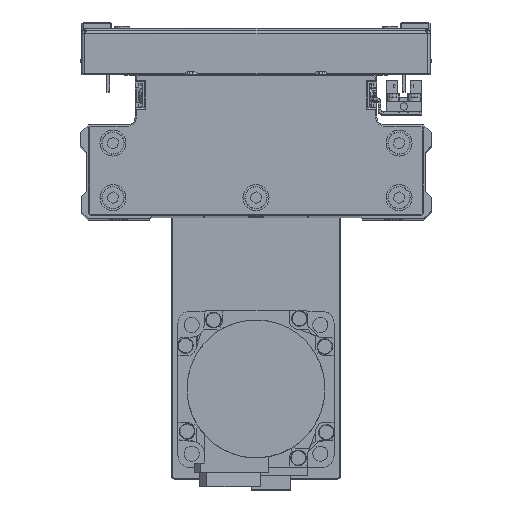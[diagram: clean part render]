
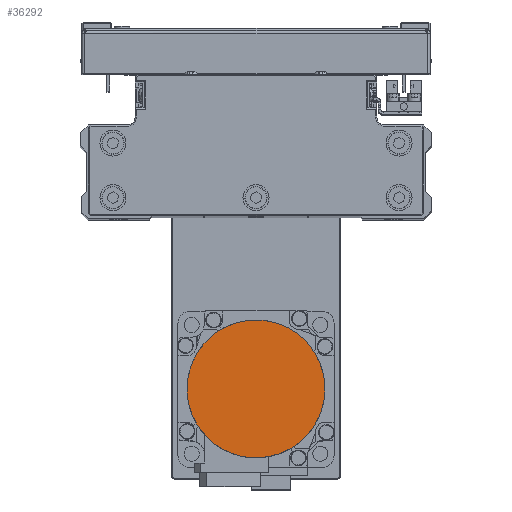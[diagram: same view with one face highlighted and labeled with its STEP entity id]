
A CAD part, top view. The second image highlights one B-rep face of the part: STEP entity #36292.
In plain terms, the highlighted planar face has unit normal (0, 0, 1) as drawn and (0, 0, -1) by its records, which use the part's own axes.
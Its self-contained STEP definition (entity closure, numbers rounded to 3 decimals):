
#1918 = CARTESIAN_POINT ( 'NONE',  ( -19.965, -17.512, -109.7 ) ) ;
#2122 = CARTESIAN_POINT ( 'NONE',  ( 11.744, -23.819, -109.7 ) ) ;
#2687 = CARTESIAN_POINT ( 'NONE',  ( 25.652, 6.871, -109.7 ) ) ;
#2898 = CARTESIAN_POINT ( 'NONE',  ( 1.734, 26.5, -109.7 ) ) ;
#3133 = CARTESIAN_POINT ( 'NONE',  ( -25.147, 8.539, -109.7 ) ) ;
#3452 = VERTEX_POINT ( 'NONE', #25132 ) ;
#4819 = DIRECTION ( 'NONE',  ( 1., 0., 0. ) ) ;
#5208 = CARTESIAN_POINT ( 'NONE',  ( -23.819, -11.744, -109.7 ) ) ;
#5425 = CARTESIAN_POINT ( 'NONE',  ( 3.469, -26.329, -109.7 ) ) ;
#5634 = CARTESIAN_POINT ( 'NONE',  ( 26.329, -3.469, -109.7 ) ) ;
#5983 = CARTESIAN_POINT ( 'NONE',  ( 26.5, 0., -109.7 ) ) ;
#6210 = CARTESIAN_POINT ( 'NONE',  ( 8.539, 25.147, -109.7 ) ) ;
#6415 = CARTESIAN_POINT ( 'NONE',  ( -21.07, 16.165, -109.7 ) ) ;
#6584 = AXIS2_PLACEMENT_3D ( 'NONE', #21518, #34893, #4819 ) ;
#6740 = ORIENTED_EDGE ( 'NONE', *, *, #15949, .F. ) ;
#8123 = PLANE ( 'NONE',  #6584 ) ;
#8508 = CARTESIAN_POINT ( 'NONE',  ( -26.329, -3.469, -109.7 ) ) ;
#8732 = CARTESIAN_POINT ( 'NONE',  ( -3.469, -26.329, -109.7 ) ) ;
#8952 = CARTESIAN_POINT ( 'NONE',  ( 23.819, -11.744, -109.7 ) ) ;
#9512 = CARTESIAN_POINT ( 'NONE',  ( 16.165, 21.07, -109.7 ) ) ;
#9735 = CARTESIAN_POINT ( 'NONE',  ( -16.165, 21.07, -109.7 ) ) ;
#11449 = ORIENTED_EDGE ( 'NONE', *, *, #19324, .F. ) ;
#12023 = CARTESIAN_POINT ( 'NONE',  ( -11.744, -23.819, -109.7 ) ) ;
#12250 = CARTESIAN_POINT ( 'NONE',  ( 19.965, -17.512, -109.7 ) ) ;
#12801 = CARTESIAN_POINT ( 'NONE',  ( 21.07, 16.165, -109.7 ) ) ;
#13029 = CARTESIAN_POINT ( 'NONE',  ( -8.539, 25.147, -109.7 ) ) ;
#13244 = CARTESIAN_POINT ( 'NONE',  ( -26.5, 0., -109.7 ) ) ;
#13843 = B_SPLINE_CURVE_WITH_KNOTS ( 'NONE', 3,
 ( #5983, #19378, #32773, #2687, #16086, #29472, #42837, #12801, #26178, #39559, #9512, #22895, #36265, #6210, #19595, #32981, #2898, #16305, #29701, #43070, #13029, #26401, #39782, #9735, #23108, #36476, #6415, #19813, #33200, #3133, #16538, #29928, #43291, #13244 ),
 .UNSPECIFIED., .F., .F.,
 ( 4, 2, 2, 2, 2, 2, 2, 2, 2, 2, 2, 2, 2, 2, 2, 2, 4 ),
 ( 0., 0.062, 0.125, 0.187, 0.25, 0.312, 0.375, 0.437, 0.5, 0.562, 0.625, 0.687, 0.75, 0.813, 0.875, 0.938, 1. ),
 .UNSPECIFIED. ) ;
#15321 = CARTESIAN_POINT ( 'NONE',  ( -17.512, -19.965, -109.7 ) ) ;
#15525 = CARTESIAN_POINT ( 'NONE',  ( 13.28, -22.998, -109.7 ) ) ;
#15949 = EDGE_CURVE ( 'NONE', #3452, #29540, #13843, .T. ) ;
#16086 = CARTESIAN_POINT ( 'NONE',  ( 25.147, 8.539, -109.7 ) ) ;
#16305 = CARTESIAN_POINT ( 'NONE',  ( -1.734, 26.5, -109.7 ) ) ;
#16538 = CARTESIAN_POINT ( 'NONE',  ( -25.652, 6.871, -109.7 ) ) ;
#18616 = CARTESIAN_POINT ( 'NONE',  ( -22.998, -13.28, -109.7 ) ) ;
#18828 = CARTESIAN_POINT ( 'NONE',  ( 6.871, -25.652, -109.7 ) ) ;
#19029 = CARTESIAN_POINT ( 'NONE',  ( 26.5, -1.734, -109.7 ) ) ;
#19324 = EDGE_CURVE ( 'NONE', #29540, #3452, #35314, .T. ) ;
#19378 = CARTESIAN_POINT ( 'NONE',  ( 26.5, 1.734, -109.7 ) ) ;
#19595 = CARTESIAN_POINT ( 'NONE',  ( 6.871, 25.652, -109.7 ) ) ;
#19813 = CARTESIAN_POINT ( 'NONE',  ( -22.998, 13.28, -109.7 ) ) ;
#21518 = CARTESIAN_POINT ( 'NONE',  ( 0., 0., -109.7 ) ) ;
#21896 = CARTESIAN_POINT ( 'NONE',  ( -25.652, -6.871, -109.7 ) ) ;
#22122 = CARTESIAN_POINT ( 'NONE',  ( -1.734, -26.5, -109.7 ) ) ;
#22333 = CARTESIAN_POINT ( 'NONE',  ( 25.147, -8.539, -109.7 ) ) ;
#22895 = CARTESIAN_POINT ( 'NONE',  ( 13.28, 22.998, -109.7 ) ) ;
#23108 = CARTESIAN_POINT ( 'NONE',  ( -17.512, 19.965, -109.7 ) ) ;
#25132 = CARTESIAN_POINT ( 'NONE',  ( 26.5, 0., -109.7 ) ) ;
#25191 = CARTESIAN_POINT ( 'NONE',  ( -26.5, 0., -109.7 ) ) ;
#25401 = CARTESIAN_POINT ( 'NONE',  ( -8.539, -25.147, -109.7 ) ) ;
#25622 = CARTESIAN_POINT ( 'NONE',  ( 21.07, -16.165, -109.7 ) ) ;
#26178 = CARTESIAN_POINT ( 'NONE',  ( 19.965, 17.512, -109.7 ) ) ;
#26401 = CARTESIAN_POINT ( 'NONE',  ( -11.744, 23.819, -109.7 ) ) ;
#27203 = CARTESIAN_POINT ( 'NONE',  ( -26.5, 0., -109.7 ) ) ;
#27509 = EDGE_LOOP ( 'NONE', ( #6740, #11449 ) ) ;
#28701 = CARTESIAN_POINT ( 'NONE',  ( -16.165, -21.07, -109.7 ) ) ;
#28909 = CARTESIAN_POINT ( 'NONE',  ( 16.165, -21.07, -109.7 ) ) ;
#29472 = CARTESIAN_POINT ( 'NONE',  ( 23.819, 11.744, -109.7 ) ) ;
#29540 = VERTEX_POINT ( 'NONE', #27203 ) ;
#29701 = CARTESIAN_POINT ( 'NONE',  ( -3.469, 26.329, -109.7 ) ) ;
#29928 = CARTESIAN_POINT ( 'NONE',  ( -26.329, 3.469, -109.7 ) ) ;
#32014 = CARTESIAN_POINT ( 'NONE',  ( -21.07, -16.165, -109.7 ) ) ;
#32218 = CARTESIAN_POINT ( 'NONE',  ( 8.539, -25.147, -109.7 ) ) ;
#32424 = CARTESIAN_POINT ( 'NONE',  ( 26.5, 0., -109.7 ) ) ;
#32773 = CARTESIAN_POINT ( 'NONE',  ( 26.329, 3.469, -109.7 ) ) ;
#32981 = CARTESIAN_POINT ( 'NONE',  ( 3.469, 26.329, -109.7 ) ) ;
#33200 = CARTESIAN_POINT ( 'NONE',  ( -23.819, 11.744, -109.7 ) ) ;
#34893 = DIRECTION ( 'NONE',  ( 0., 0., 1. ) ) ;
#35284 = CARTESIAN_POINT ( 'NONE',  ( -25.147, -8.539, -109.7 ) ) ;
#35314 = B_SPLINE_CURVE_WITH_KNOTS ( 'NONE', 3,
 ( #25191, #38569, #8508, #21896, #35284, #5208, #18616, #32014, #1918, #15321, #28701, #42066, #12023, #25401, #38788, #8732, #22122, #35503, #5425, #18828, #32218, #2122, #15525, #28909, #42290, #12250, #25622, #39005, #8952, #22333, #35711, #5634, #19029, #32424 ),
 .UNSPECIFIED., .F., .F.,
 ( 4, 2, 2, 2, 2, 2, 2, 2, 2, 2, 2, 2, 2, 2, 2, 2, 4 ),
 ( 0., 0.063, 0.125, 0.188, 0.25, 0.312, 0.375, 0.437, 0.5, 0.562, 0.625, 0.687, 0.75, 0.813, 0.875, 0.938, 1. ),
 .UNSPECIFIED. ) ;
#35503 = CARTESIAN_POINT ( 'NONE',  ( 1.734, -26.5, -109.7 ) ) ;
#35711 = CARTESIAN_POINT ( 'NONE',  ( 25.652, -6.871, -109.7 ) ) ;
#36265 = CARTESIAN_POINT ( 'NONE',  ( 11.744, 23.819, -109.7 ) ) ;
#36292 = ADVANCED_FACE ( 'NONE', ( #38180 ), #8123, .F. ) ;
#36476 = CARTESIAN_POINT ( 'NONE',  ( -19.965, 17.512, -109.7 ) ) ;
#38180 = FACE_OUTER_BOUND ( 'NONE', #27509, .T. ) ;
#38569 = CARTESIAN_POINT ( 'NONE',  ( -26.5, -1.734, -109.7 ) ) ;
#38788 = CARTESIAN_POINT ( 'NONE',  ( -6.871, -25.652, -109.7 ) ) ;
#39005 = CARTESIAN_POINT ( 'NONE',  ( 22.998, -13.28, -109.7 ) ) ;
#39559 = CARTESIAN_POINT ( 'NONE',  ( 17.512, 19.965, -109.7 ) ) ;
#39782 = CARTESIAN_POINT ( 'NONE',  ( -13.28, 22.998, -109.7 ) ) ;
#42066 = CARTESIAN_POINT ( 'NONE',  ( -13.28, -22.998, -109.7 ) ) ;
#42290 = CARTESIAN_POINT ( 'NONE',  ( 17.512, -19.965, -109.7 ) ) ;
#42837 = CARTESIAN_POINT ( 'NONE',  ( 22.998, 13.28, -109.7 ) ) ;
#43070 = CARTESIAN_POINT ( 'NONE',  ( -6.871, 25.652, -109.7 ) ) ;
#43291 = CARTESIAN_POINT ( 'NONE',  ( -26.5, 1.734, -109.7 ) ) ;
